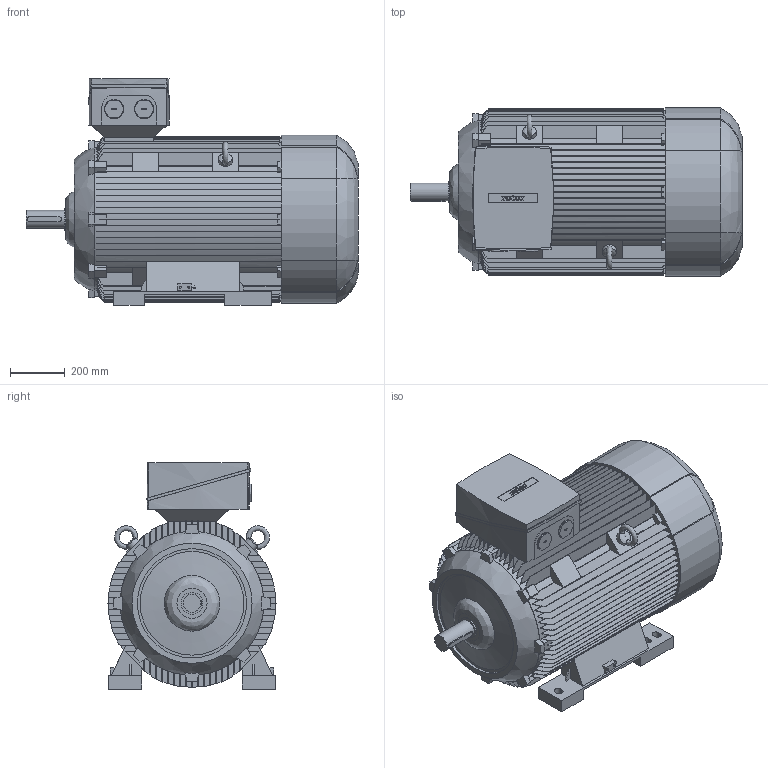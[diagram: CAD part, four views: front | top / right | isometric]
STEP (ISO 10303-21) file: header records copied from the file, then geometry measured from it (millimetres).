
FILE_DESCRIPTION (( 'STEP AP214' ), '1' );
FILE_NAME ('6RN315M02E32 IM1001.STEP', '2016-03-18T10:12:39', ( 'rotor' ), ( 'Hewlett-Packard Company' ), 'SwSTEP 2.0', 'SolidWorks 2012', '' );
FILE_SCHEMA (( 'AUTOMOTIVE_DESIGN' ));
Length unit declared in the file: millimetre
Products named in the file (1): 6RN315M02E32 IM1001
Bounding box: 1217 x 616 x 830 mm (x, y, z)
Volume: 279050695.4 mm3; surface area: 7270467 mm2
Topology: 7 solids, 7 shells, 1043 faces, 2981 edges, 1980 vertices
Faces by surface type: plane 687, bspline 195, cylinder 156, cone 5
Full cylindrical faces by diameter (mm): 8 x4, 50 x2, 65 x1, 70 x2, 80 x1, 400 x1
Entity records: 50888 total; most frequent: CARTESIAN_POINT 14391, ORIENTED_EDGE 5902, DIRECTION 4698, EDGE_CURVE 2951, VERTEX_POINT 1969, LINE 1812, VECTOR 1812, AXIS2_PLACEMENT_3D 1443
